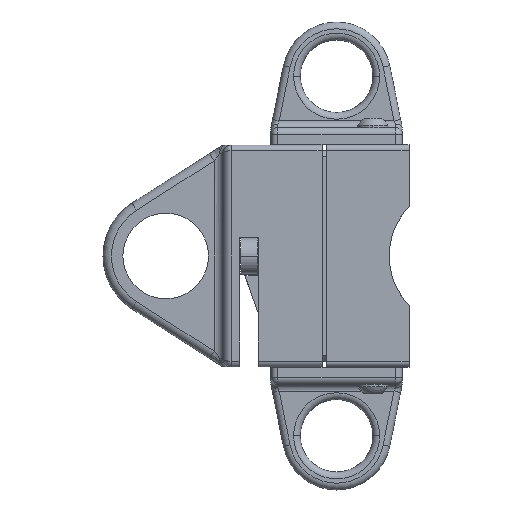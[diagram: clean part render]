
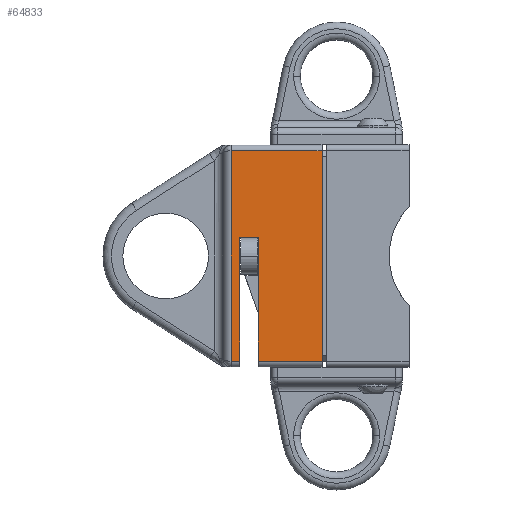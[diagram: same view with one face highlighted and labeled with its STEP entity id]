
A CAD part, left-side view. The second image highlights one B-rep face of the part: STEP entity #64833.
In plain terms, the highlighted planar face has unit normal (-1, 0, 0).
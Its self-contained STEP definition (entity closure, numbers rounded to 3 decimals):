
#298 = DIRECTION ( 'NONE',  ( 0., 0., -1. ) ) ;
#2201 = LINE ( 'NONE', #23655, #77003 ) ;
#5236 = EDGE_LOOP ( 'NONE', ( #20859, #8026, #25709, #100212, #11002, #46939, #32236, #70922, #91814, #5944 ) ) ;
#5664 = CARTESIAN_POINT ( 'NONE',  ( -25.5, 62.28, -36.85 ) ) ;
#5805 = LINE ( 'NONE', #75546, #50657 ) ;
#5944 = ORIENTED_EDGE ( 'NONE', *, *, #72337, .T. ) ;
#6232 = CARTESIAN_POINT ( 'NONE',  ( -25.5, 52.93, -38.85 ) ) ;
#6982 = EDGE_CURVE ( 'NONE', #71607, #55868, #33554, .T. ) ;
#8026 = ORIENTED_EDGE ( 'NONE', *, *, #6982, .F. ) ;
#8689 = CARTESIAN_POINT ( 'NONE',  ( -25.5, 59.28, 6.6 ) ) ;
#9519 = DIRECTION ( 'NONE',  ( 0., 1., 0. ) ) ;
#11002 = ORIENTED_EDGE ( 'NONE', *, *, #24394, .T. ) ;
#11521 = CARTESIAN_POINT ( 'NONE',  ( -25.5, 30.5, -35.1 ) ) ;
#14792 = DIRECTION ( 'NONE',  ( 0., 0., -1. ) ) ;
#15006 = CARTESIAN_POINT ( 'NONE',  ( -25.5, 62.28, 36.85 ) ) ;
#16302 = VECTOR ( 'NONE', #85049, 1000. ) ;
#16583 = DIRECTION ( 'NONE',  ( 0., 1., 0. ) ) ;
#19925 = VERTEX_POINT ( 'NONE', #57654 ) ;
#19964 = EDGE_CURVE ( 'NONE', #19925, #24355, #79972, .T. ) ;
#20859 = ORIENTED_EDGE ( 'NONE', *, *, #103399, .T. ) ;
#22252 = FACE_OUTER_BOUND ( 'NONE', #5236, .T. ) ;
#23503 = VERTEX_POINT ( 'NONE', #30550 ) ;
#23655 = CARTESIAN_POINT ( 'NONE',  ( -25.5, 62.28, -36.85 ) ) ;
#24355 = VERTEX_POINT ( 'NONE', #15006 ) ;
#24394 = EDGE_CURVE ( 'NONE', #24355, #29141, #2201, .T. ) ;
#25709 = ORIENTED_EDGE ( 'NONE', *, *, #27764, .T. ) ;
#25950 = CARTESIAN_POINT ( 'NONE',  ( -25.5, 59.28, -36.85 ) ) ;
#27764 = EDGE_CURVE ( 'NONE', #71607, #19925, #98511, .T. ) ;
#29076 = VECTOR ( 'NONE', #61672, 1000. ) ;
#29141 = VERTEX_POINT ( 'NONE', #5664 ) ;
#29828 = VECTOR ( 'NONE', #67872, 1000. ) ;
#30329 = EDGE_CURVE ( 'NONE', #29141, #50895, #73484, .T. ) ;
#30550 = CARTESIAN_POINT ( 'NONE',  ( -25.5, 30.5, -36.85 ) ) ;
#31003 = PLANE ( 'NONE',  #47946 ) ;
#32236 = ORIENTED_EDGE ( 'NONE', *, *, #101161, .F. ) ;
#33087 = CARTESIAN_POINT ( 'NONE',  ( -25.5, 30.5, 35.1 ) ) ;
#33554 = LINE ( 'NONE', #94401, #16302 ) ;
#35360 = CARTESIAN_POINT ( 'NONE',  ( -25.5, 30.5, -38.85 ) ) ;
#42259 = VECTOR ( 'NONE', #72490, 1000. ) ;
#42517 = EDGE_CURVE ( 'NONE', #57806, #65180, #81489, .T. ) ;
#44405 = DIRECTION ( 'NONE',  ( 0., 0., 1. ) ) ;
#45251 = LINE ( 'NONE', #62552, #81362 ) ;
#46939 = ORIENTED_EDGE ( 'NONE', *, *, #30329, .T. ) ;
#47946 = AXIS2_PLACEMENT_3D ( 'NONE', #71500, #94125, #86817 ) ;
#50045 = VECTOR ( 'NONE', #16583, 1000. ) ;
#50657 = VECTOR ( 'NONE', #51839, 1000. ) ;
#50895 = VERTEX_POINT ( 'NONE', #25950 ) ;
#51377 = EDGE_CURVE ( 'NONE', #65180, #80645, #94319, .T. ) ;
#51839 = DIRECTION ( 'NONE',  ( 0., -1., 0. ) ) ;
#52512 = CARTESIAN_POINT ( 'NONE',  ( -25.5, 52.93, -36.85 ) ) ;
#55868 = VERTEX_POINT ( 'NONE', #11521 ) ;
#56919 = CARTESIAN_POINT ( 'NONE',  ( -25.5, 52.93, 6.6 ) ) ;
#57654 = CARTESIAN_POINT ( 'NONE',  ( -25.5, 30.5, 36.85 ) ) ;
#57806 = VERTEX_POINT ( 'NONE', #52512 ) ;
#61672 = DIRECTION ( 'NONE',  ( 0., 0., 1. ) ) ;
#62552 = CARTESIAN_POINT ( 'NONE',  ( -25.5, 59.28, -38.85 ) ) ;
#64833 = ADVANCED_FACE ( 'NONE', ( #22252 ), #31003, .F. ) ;
#65180 = VERTEX_POINT ( 'NONE', #66632 ) ;
#66632 = CARTESIAN_POINT ( 'NONE',  ( -25.5, 52.93, 6.6 ) ) ;
#67872 = DIRECTION ( 'NONE',  ( 0., 0., 1. ) ) ;
#70922 = ORIENTED_EDGE ( 'NONE', *, *, #51377, .F. ) ;
#71500 = CARTESIAN_POINT ( 'NONE',  ( -25.5, 52.93, -38.85 ) ) ;
#71607 = VERTEX_POINT ( 'NONE', #33087 ) ;
#71809 = CARTESIAN_POINT ( 'NONE',  ( -25.5, 59.28, -36.85 ) ) ;
#72337 = EDGE_CURVE ( 'NONE', #57806, #23503, #5805, .T. ) ;
#72490 = DIRECTION ( 'NONE',  ( 0., -1., 0. ) ) ;
#72637 = CARTESIAN_POINT ( 'NONE',  ( -25.5, 52.93, 36.85 ) ) ;
#73484 = LINE ( 'NONE', #71809, #42259 ) ;
#75546 = CARTESIAN_POINT ( 'NONE',  ( -25.5, 52.93, -36.85 ) ) ;
#77003 = VECTOR ( 'NONE', #298, 1000. ) ;
#79972 = LINE ( 'NONE', #72637, #50045 ) ;
#80645 = VERTEX_POINT ( 'NONE', #8689 ) ;
#81362 = VECTOR ( 'NONE', #14792, 1000. ) ;
#81489 = LINE ( 'NONE', #6232, #29076 ) ;
#85049 = DIRECTION ( 'NONE',  ( 0., 0., -1. ) ) ;
#86817 = DIRECTION ( 'NONE',  ( 0., 0., -1. ) ) ;
#89721 = LINE ( 'NONE', #35360, #29828 ) ;
#90608 = VECTOR ( 'NONE', #9519, 1000. ) ;
#91814 = ORIENTED_EDGE ( 'NONE', *, *, #42517, .F. ) ;
#92304 = VECTOR ( 'NONE', #44405, 1000. ) ;
#92450 = CARTESIAN_POINT ( 'NONE',  ( -25.5, 30.5, -38.85 ) ) ;
#94125 = DIRECTION ( 'NONE',  ( 1., 0., 0. ) ) ;
#94319 = LINE ( 'NONE', #56919, #90608 ) ;
#94401 = CARTESIAN_POINT ( 'NONE',  ( -25.5, 30.5, -38.85 ) ) ;
#98511 = LINE ( 'NONE', #92450, #92304 ) ;
#100212 = ORIENTED_EDGE ( 'NONE', *, *, #19964, .T. ) ;
#101161 = EDGE_CURVE ( 'NONE', #80645, #50895, #45251, .T. ) ;
#103399 = EDGE_CURVE ( 'NONE', #23503, #55868, #89721, .T. ) ;
